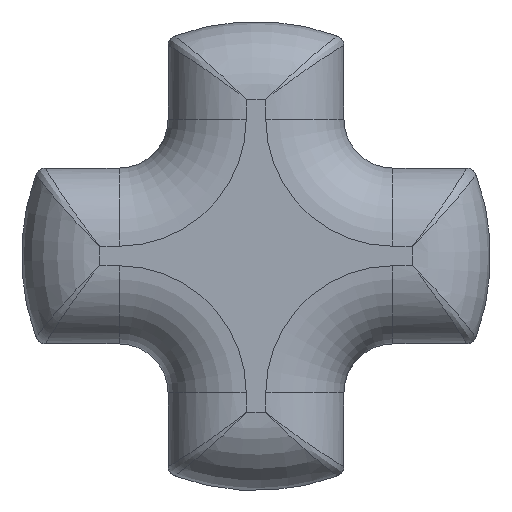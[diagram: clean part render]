
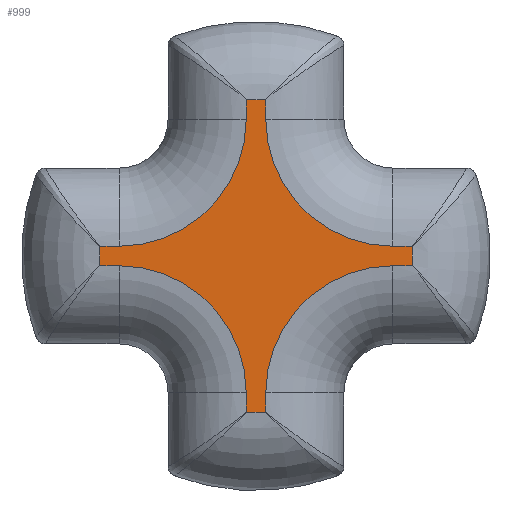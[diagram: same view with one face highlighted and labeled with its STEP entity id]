
A CAD part, front view. The second image highlights one B-rep face of the part: STEP entity #999.
In plain terms, the highlighted planar face has unit normal (0, -1, 0).
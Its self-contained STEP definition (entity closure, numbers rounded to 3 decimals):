
#100=CIRCLE('',#1103,1.6);
#101=CIRCLE('',#1104,1.3);
#102=CIRCLE('',#1105,1.6);
#103=CIRCLE('',#1106,1.3);
#104=CIRCLE('',#1107,1.6);
#105=CIRCLE('',#1108,1.3);
#106=CIRCLE('',#1109,1.6);
#107=CIRCLE('',#1110,1.3);
#244=ORIENTED_EDGE('',*,*,#548,.T.);
#245=ORIENTED_EDGE('',*,*,#549,.T.);
#246=ORIENTED_EDGE('',*,*,#550,.T.);
#247=ORIENTED_EDGE('',*,*,#551,.T.);
#248=ORIENTED_EDGE('',*,*,#552,.T.);
#249=ORIENTED_EDGE('',*,*,#553,.T.);
#250=ORIENTED_EDGE('',*,*,#554,.T.);
#251=ORIENTED_EDGE('',*,*,#555,.T.);
#252=ORIENTED_EDGE('',*,*,#556,.T.);
#253=ORIENTED_EDGE('',*,*,#557,.T.);
#254=ORIENTED_EDGE('',*,*,#558,.T.);
#255=ORIENTED_EDGE('',*,*,#559,.T.);
#256=ORIENTED_EDGE('',*,*,#560,.T.);
#257=ORIENTED_EDGE('',*,*,#561,.T.);
#258=ORIENTED_EDGE('',*,*,#562,.T.);
#259=ORIENTED_EDGE('',*,*,#563,.T.);
#548=EDGE_CURVE('',#700,#701,#764,.F.);
#549=EDGE_CURVE('',#701,#702,#100,.F.);
#550=EDGE_CURVE('',#702,#703,#765,.F.);
#551=EDGE_CURVE('',#703,#704,#101,.T.);
#552=EDGE_CURVE('',#704,#705,#766,.F.);
#553=EDGE_CURVE('',#705,#706,#102,.F.);
#554=EDGE_CURVE('',#706,#707,#767,.F.);
#555=EDGE_CURVE('',#707,#708,#103,.T.);
#556=EDGE_CURVE('',#708,#709,#768,.F.);
#557=EDGE_CURVE('',#709,#710,#104,.F.);
#558=EDGE_CURVE('',#710,#711,#769,.F.);
#559=EDGE_CURVE('',#711,#712,#105,.T.);
#560=EDGE_CURVE('',#712,#713,#770,.F.);
#561=EDGE_CURVE('',#713,#714,#106,.F.);
#562=EDGE_CURVE('',#714,#715,#771,.F.);
#563=EDGE_CURVE('',#715,#700,#107,.T.);
#700=VERTEX_POINT('',#1641);
#701=VERTEX_POINT('',#1642);
#702=VERTEX_POINT('',#1644);
#703=VERTEX_POINT('',#1646);
#704=VERTEX_POINT('',#1648);
#705=VERTEX_POINT('',#1650);
#706=VERTEX_POINT('',#1652);
#707=VERTEX_POINT('',#1654);
#708=VERTEX_POINT('',#1656);
#709=VERTEX_POINT('',#1658);
#710=VERTEX_POINT('',#1660);
#711=VERTEX_POINT('',#1662);
#712=VERTEX_POINT('',#1664);
#713=VERTEX_POINT('',#1666);
#714=VERTEX_POINT('',#1668);
#715=VERTEX_POINT('',#1670);
#764=LINE('',#1640,#820);
#765=LINE('',#1645,#821);
#766=LINE('',#1649,#822);
#767=LINE('',#1653,#823);
#768=LINE('',#1657,#824);
#769=LINE('',#1661,#825);
#770=LINE('',#1665,#826);
#771=LINE('',#1669,#827);
#820=VECTOR('',#1305,1000.);
#821=VECTOR('',#1308,1000.);
#822=VECTOR('',#1311,1000.);
#823=VECTOR('',#1314,1000.);
#824=VECTOR('',#1317,1000.);
#825=VECTOR('',#1320,1000.);
#826=VECTOR('',#1323,1000.);
#827=VECTOR('',#1326,1000.);
#841=EDGE_LOOP('',(#244,#245,#246,#247,#248,#249,#250,#251,#252,#253,#254,
#255,#256,#257,#258,#259));
#915=FACE_BOUND('',#841,.T.);
#985=PLANE('',#1102);
#999=ADVANCED_FACE('',(#915),#985,.F.);
#1102=AXIS2_PLACEMENT_3D('',#1639,#1303,#1304);
#1103=AXIS2_PLACEMENT_3D('',#1643,#1306,#1307);
#1104=AXIS2_PLACEMENT_3D('',#1647,#1309,#1310);
#1105=AXIS2_PLACEMENT_3D('',#1651,#1312,#1313);
#1106=AXIS2_PLACEMENT_3D('',#1655,#1315,#1316);
#1107=AXIS2_PLACEMENT_3D('',#1659,#1318,#1319);
#1108=AXIS2_PLACEMENT_3D('',#1663,#1321,#1322);
#1109=AXIS2_PLACEMENT_3D('',#1667,#1324,#1325);
#1110=AXIS2_PLACEMENT_3D('',#1671,#1327,#1328);
#1303=DIRECTION('',(0.,1.,0.));
#1304=DIRECTION('',(0.,0.,1.));
#1305=DIRECTION('',(0.,0.,1.));
#1306=DIRECTION('',(0.,1.,0.));
#1307=DIRECTION('',(0.,0.,1.));
#1308=DIRECTION('',(0.,0.,-1.));
#1309=DIRECTION('',(0.,1.,0.));
#1310=DIRECTION('',(0.,0.,1.));
#1311=DIRECTION('',(-1.,0.,0.));
#1312=DIRECTION('',(0.,1.,0.));
#1313=DIRECTION('',(0.,0.,1.));
#1314=DIRECTION('',(1.,0.,0.));
#1315=DIRECTION('',(0.,1.,0.));
#1316=DIRECTION('',(0.,0.,1.));
#1317=DIRECTION('',(0.,0.,-1.));
#1318=DIRECTION('',(0.,1.,0.));
#1319=DIRECTION('',(0.,0.,1.));
#1320=DIRECTION('',(0.,0.,1.));
#1321=DIRECTION('',(0.,1.,0.));
#1322=DIRECTION('',(0.,0.,1.));
#1323=DIRECTION('',(1.,0.,0.));
#1324=DIRECTION('',(0.,1.,0.));
#1325=DIRECTION('',(0.,0.,1.));
#1326=DIRECTION('',(-1.,0.,0.));
#1327=DIRECTION('',(0.,1.,0.));
#1328=DIRECTION('',(0.,0.,1.));
#1639=CARTESIAN_POINT('',(0.,0.,0.));
#1640=CARTESIAN_POINT('',(-0.1,0.,0.));
#1641=CARTESIAN_POINT('',(-0.1,0.,-1.4));
#1642=CARTESIAN_POINT('',(-0.1,0.,-1.597));
#1643=CARTESIAN_POINT('',(0.,0.,0.));
#1644=CARTESIAN_POINT('',(0.1,0.,-1.597));
#1645=CARTESIAN_POINT('',(0.1,0.,0.));
#1646=CARTESIAN_POINT('',(0.1,0.,-1.4));
#1647=CARTESIAN_POINT('',(1.4,0.,-1.4));
#1648=CARTESIAN_POINT('',(1.4,0.,-0.1));
#1649=CARTESIAN_POINT('',(0.,0.,-0.1));
#1650=CARTESIAN_POINT('',(1.597,0.,-0.1));
#1651=CARTESIAN_POINT('',(0.,0.,0.));
#1652=CARTESIAN_POINT('',(1.597,0.,0.1));
#1653=CARTESIAN_POINT('',(0.,0.,0.1));
#1654=CARTESIAN_POINT('',(1.4,0.,0.1));
#1655=CARTESIAN_POINT('',(1.4,0.,1.4));
#1656=CARTESIAN_POINT('',(0.1,0.,1.4));
#1657=CARTESIAN_POINT('',(0.1,0.,0.));
#1658=CARTESIAN_POINT('',(0.1,0.,1.597));
#1659=CARTESIAN_POINT('',(0.,0.,0.));
#1660=CARTESIAN_POINT('',(-0.1,0.,1.597));
#1661=CARTESIAN_POINT('',(-0.1,0.,0.));
#1662=CARTESIAN_POINT('',(-0.1,0.,1.4));
#1663=CARTESIAN_POINT('',(-1.4,0.,1.4));
#1664=CARTESIAN_POINT('',(-1.4,0.,0.1));
#1665=CARTESIAN_POINT('',(0.,0.,0.1));
#1666=CARTESIAN_POINT('',(-1.597,0.,0.1));
#1667=CARTESIAN_POINT('',(0.,0.,0.));
#1668=CARTESIAN_POINT('',(-1.597,0.,-0.1));
#1669=CARTESIAN_POINT('',(0.,0.,-0.1));
#1670=CARTESIAN_POINT('',(-1.4,0.,-0.1));
#1671=CARTESIAN_POINT('',(-1.4,0.,-1.4));
